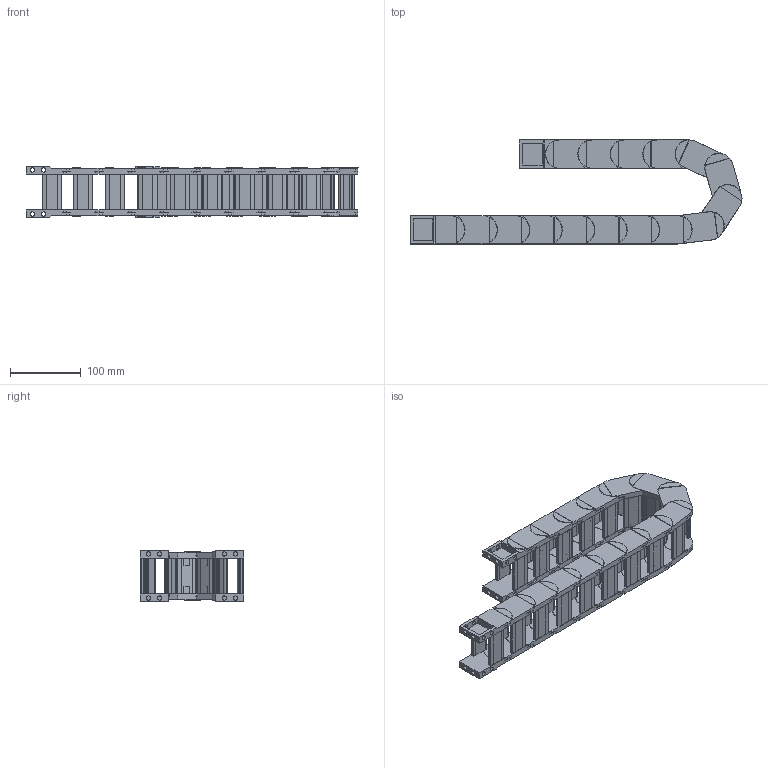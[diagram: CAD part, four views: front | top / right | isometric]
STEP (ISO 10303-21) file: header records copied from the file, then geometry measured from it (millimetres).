
FILE_DESCRIPTION((''),'2;1');
FILE_NAME('HD25-R55-ZPT_ASM','2022-06-05T16:45:11',('admin'),(''),'CREO PARAMETRIC BY PTC INC, 2021164','CREO PARAMETRIC BY PTC INC, 2021164','');
FILE_SCHEMA(('CONFIG_CONTROL_DESIGN','GEOMETRIC_VALIDATION_PROPERTIES_MIM'));
Length unit declared in the file: millimetre
Products named in the file (6): HD-25_8; 25XL-QSYP-50; HD25_ASM; H25-T1; H25-T2; HD25-R55-ZPT_ASM
Assembly tree (21 placements, depth 3):
  HD25-R55-ZPT_ASM
    HD25_ASM  x15
      HD-25_8
      25XL-QSYP-50
    H25-T1
    H25-T2
    25XL-QSYP-50  x2
Bounding box: 470.63 x 147.37 x 71.8 mm (x, y, z)
Volume: 757974.5 mm3; surface area: 402830.8 mm2
Topology: 68 solids, 68 shells, 1486 faces, 3850 edges, 2572 vertices
Faces by surface type: plane 1106, cylinder 380
Entity records: 9858 total; most frequent: CARTESIAN_POINT 1445, DIRECTION 1388, ORIENTED_EDGE 1336, EDGE_CURVE 668, VECTOR 498, LINE 498, VERTEX_POINT 446, AXIS2_PLACEMENT_3D 445
